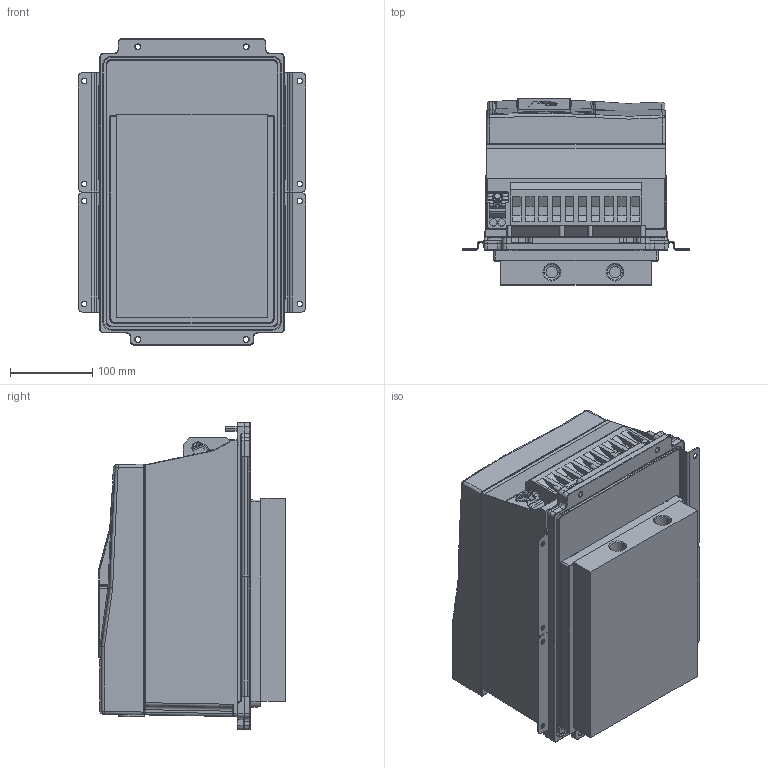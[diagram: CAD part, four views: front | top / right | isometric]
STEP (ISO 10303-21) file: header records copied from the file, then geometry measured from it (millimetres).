
FILE_DESCRIPTION (( 'STEP AP214' ), '1' );
FILE_NAME ('F6-4TK5-K000.STEP', '2020-12-10T12:29:05', ( '' ), ( '' ), 'SwSTEP 2.0', 'SolidWorks 2019', '' );
FILE_SCHEMA (( 'AUTOMOTIVE_DESIGN' ));
Length unit declared in the file: millimetre
Products named in the file (11): 10035735_000_Kundenmodell; 10059764_000_Blindabdeckung (Kundenmodell); 10061645_000; 10060814_000; 10060692_000_Leistungsteil TK5 (Kundenmodell); 10032600_000_Kundenmodell; F6-4TK5-K000; 10061644_000_Deckel (Kundenmodell); 10059765_000; 10058413_000; 10058448_000
Assembly tree (10 placements, depth 4):
  F6-4TK5-K000
    10060692_000_Leistungsteil TK5 (Kundenmodell)
      10060814_000
    10032600_000_Kundenmodell
      10061644_000_Deckel (Kundenmodell)
        10061645_000
      10058448_000
    10035735_000_Kundenmodell
      10059764_000_Blindabdeckung (Kundenmodell)
        10059765_000
      10058413_000
Bounding box: 277 x 226.7 x 373 mm (x, y, z)
Volume: 14430574.5 mm3; surface area: 855657.8 mm2
Topology: 11 solids, 26 shells, 2507 faces, 6437 edges, 4014 vertices
Faces by surface type: plane 1047, cylinder 631, bspline 525, torus 159, cone 105, sphere 40
Entity records: 102479 total; most frequent: CARTESIAN_POINT 39413, ORIENTED_EDGE 12756, DIRECTION 10633, EDGE_CURVE 6378, VERTEX_POINT 4012, AXIS2_PLACEMENT_3D 3547, LINE 3539, VECTOR 3539
